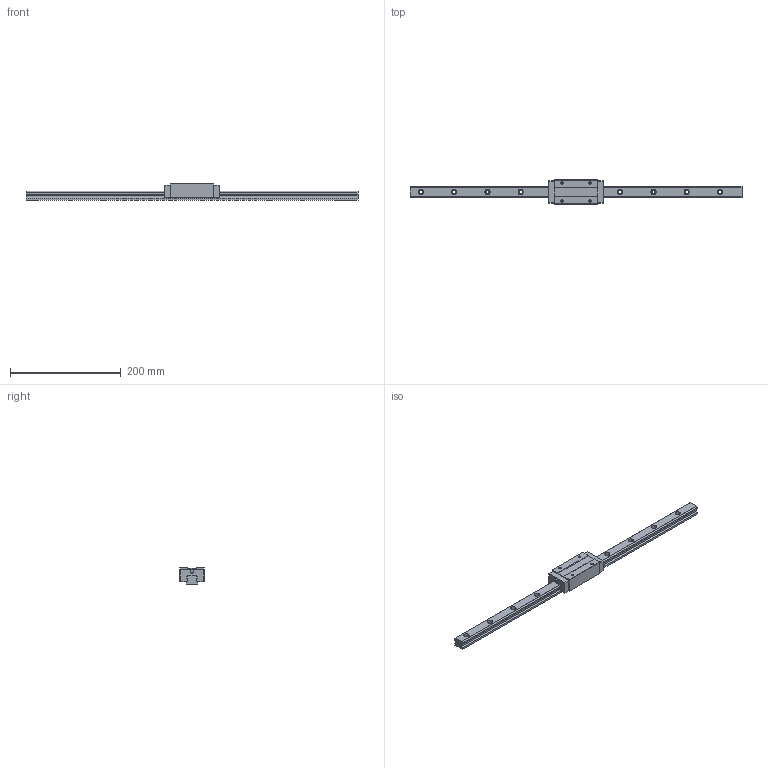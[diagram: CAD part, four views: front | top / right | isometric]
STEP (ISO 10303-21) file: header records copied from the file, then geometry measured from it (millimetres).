
FILE_DESCRIPTION (( 'STEP AP203' ), '1' );
FILE_NAME ('TRH20VE-XNC.STEP', '2024-08-16T06:21:12', ( '' ), ( '' ), 'SwSTEP 2.0', 'SolidWorks 2021', '' );
FILE_SCHEMA (( 'CONFIG_CONTROL_DESIGN' ));
Length unit declared in the file: millimetre
Products named in the file (1): TRH20VE-XNC
Bounding box: 600 x 44 x 30 mm (x, y, z)
Volume: 252110.6 mm3; surface area: 67325.3 mm2
Topology: 1 solids, 1 shells, 185 faces, 513 edges, 334 vertices
Faces by surface type: cylinder 88, plane 81, cone 16
Entity records: 6049 total; most frequent: CARTESIAN_POINT 1062, DIRECTION 1056, ORIENTED_EDGE 1010, EDGE_CURVE 505, AXIS2_PLACEMENT_3D 372, VERTEX_POINT 334, VECTOR 312, LINE 312
